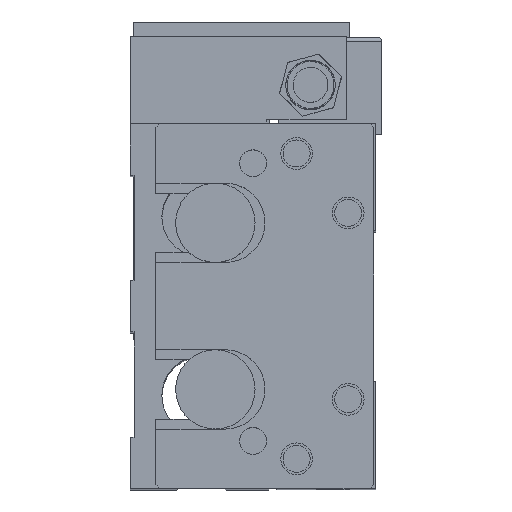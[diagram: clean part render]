
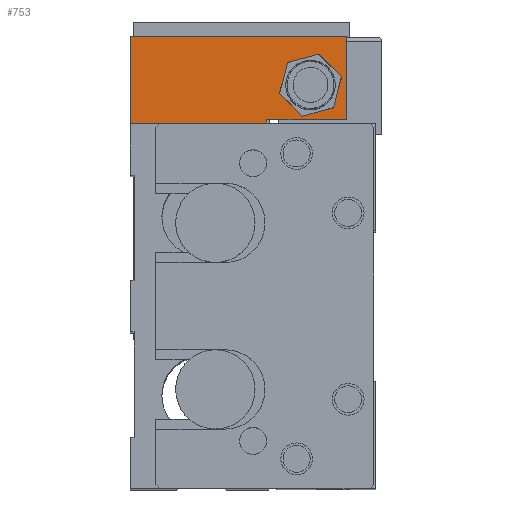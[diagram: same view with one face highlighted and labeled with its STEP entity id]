
A CAD part, top view. The second image highlights one B-rep face of the part: STEP entity #753.
In plain terms, the highlighted planar face has unit normal (0, 0, 1) as drawn and (0, 0, -1) by its records, which use the part's own axes.
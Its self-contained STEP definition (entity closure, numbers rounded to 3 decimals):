
#741 = ORIENTED_EDGE ( 'NONE', *, *, #767, .F. ) ;
#742 = ORIENTED_EDGE ( 'NONE', *, *, #34439, .F. ) ;
#745 = VERTEX_POINT ( 'NONE', #4288 ) ;
#753 = ADVANCED_FACE ( 'NONE', ( #4283, #4284 ), #4345, .T. ) ;
#755 = ORIENTED_EDGE ( 'NONE', *, *, #34205, .F. ) ;
#758 = ORIENTED_EDGE ( 'NONE', *, *, #34209, .F. ) ;
#759 = EDGE_LOOP ( 'NONE', ( #769, #765 ) ) ;
#765 = ORIENTED_EDGE ( 'NONE', *, *, #33395, .T. ) ;
#766 = ORIENTED_EDGE ( 'NONE', *, *, #34226, .F. ) ;
#767 = EDGE_CURVE ( 'NONE', #34160, #745, #4406, .T. ) ;
#769 = ORIENTED_EDGE ( 'NONE', *, *, #774, .T. ) ;
#770 = ORIENTED_EDGE ( 'NONE', *, *, #34294, .F. ) ;
#774 = EDGE_CURVE ( 'NONE', #34460, #34462, #4465, .T. ) ;
#4283 = FACE_OUTER_BOUND ( 'NONE', #34272, .T. ) ;
#4284 = FACE_BOUND ( 'NONE', #759, .T. ) ;
#4288 = CARTESIAN_POINT ( 'NONE',  ( 3.5, 34.5, 0. ) ) ;
#4334 = AXIS2_PLACEMENT_3D ( 'NONE', #4339, #4338, #4411 ) ;
#4338 = DIRECTION ( 'NONE',  ( 0., 0., -1. ) ) ;
#4339 = CARTESIAN_POINT ( 'NONE',  ( 0., 54.5, 0. ) ) ;
#4345 = PLANE ( 'NONE',  #4334 ) ;
#4403 = AXIS2_PLACEMENT_3D ( 'NONE', #4462, #4461, #4460 ) ;
#4405 = CARTESIAN_POINT ( 'NONE',  ( 3.5, 54.5, 0. ) ) ;
#4406 = LINE ( 'NONE', #4405, #4467 ) ;
#4411 = DIRECTION ( 'NONE',  ( -1., 0., 0. ) ) ;
#4460 = DIRECTION ( 'NONE',  ( 1., 0., 0. ) ) ;
#4461 = DIRECTION ( 'NONE',  ( 0., 0., 1. ) ) ;
#4462 = CARTESIAN_POINT ( 'NONE',  ( 12.25, 45.5, 0. ) ) ;
#4465 = CIRCLE ( 'NONE', #4403, 6.25 ) ;
#4466 = DIRECTION ( 'NONE',  ( 0., -1., 0. ) ) ;
#4467 = VECTOR ( 'NONE', #4466, 1000. ) ;
#24512 = DIRECTION ( 'NONE',  ( 1., 0., 0. ) ) ;
#24513 = DIRECTION ( 'NONE',  ( 0., 0., 1. ) ) ;
#24514 = AXIS2_PLACEMENT_3D ( 'NONE', #24522, #24513, #24512 ) ;
#24522 = CARTESIAN_POINT ( 'NONE',  ( 12.25, 45.5, 0. ) ) ;
#24535 = CIRCLE ( 'NONE', #24514, 6.25 ) ;
#24668 = CARTESIAN_POINT ( 'NONE',  ( 3.5, 54.5, 0. ) ) ;
#24733 = LINE ( 'NONE', #24792, #24791 ) ;
#24735 = CARTESIAN_POINT ( 'NONE',  ( 0., 34.5, 0. ) ) ;
#24736 = DIRECTION ( 'NONE',  ( 1., 0., 0. ) ) ;
#24738 = VECTOR ( 'NONE', #24736, 1000. ) ;
#24739 = CARTESIAN_POINT ( 'NONE',  ( 0., 0., 0. ) ) ;
#24742 = LINE ( 'NONE', #24739, #24738 ) ;
#24770 = CARTESIAN_POINT ( 'NONE',  ( 0., 0., 0. ) ) ;
#24771 = LINE ( 'NONE', #24770, #24833 ) ;
#24772 = CARTESIAN_POINT ( 'NONE',  ( 0., 0., 0. ) ) ;
#24790 = DIRECTION ( 'NONE',  ( -1., 0., 0. ) ) ;
#24791 = VECTOR ( 'NONE', #24790, 1000. ) ;
#24792 = CARTESIAN_POINT ( 'NONE',  ( 0., 54.5, 0. ) ) ;
#24793 = CARTESIAN_POINT ( 'NONE',  ( 24.5, 54.5, 0. ) ) ;
#24821 = CARTESIAN_POINT ( 'NONE',  ( 24.5, 0., 0. ) ) ;
#24832 = DIRECTION ( 'NONE',  ( 0., -1., 0. ) ) ;
#24833 = VECTOR ( 'NONE', #24832, 1000. ) ;
#24940 = DIRECTION ( 'NONE',  ( 0., 1., 0. ) ) ;
#24941 = VECTOR ( 'NONE', #24940, 1000. ) ;
#24942 = CARTESIAN_POINT ( 'NONE',  ( 24.5, 0., 0. ) ) ;
#24944 = LINE ( 'NONE', #24942, #24941 ) ;
#25242 = CARTESIAN_POINT ( 'NONE',  ( 18.5, 45.5, 0. ) ) ;
#25265 = DIRECTION ( 'NONE',  ( -1., 0., 0. ) ) ;
#25266 = VECTOR ( 'NONE', #25265, 1000. ) ;
#25267 = CARTESIAN_POINT ( 'NONE',  ( 3.5, 34.5, 0. ) ) ;
#25268 = LINE ( 'NONE', #25267, #25266 ) ;
#25274 = CARTESIAN_POINT ( 'NONE',  ( 6., 45.5, 0. ) ) ;
#33395 = EDGE_CURVE ( 'NONE', #34462, #34460, #24535, .T. ) ;
#34160 = VERTEX_POINT ( 'NONE', #24668 ) ;
#34205 = EDGE_CURVE ( 'NONE', #34249, #34240, #24742, .T. ) ;
#34209 = EDGE_CURVE ( 'NONE', #34212, #34160, #24733, .T. ) ;
#34210 = VERTEX_POINT ( 'NONE', #24735 ) ;
#34212 = VERTEX_POINT ( 'NONE', #24793 ) ;
#34226 = EDGE_CURVE ( 'NONE', #34210, #34249, #24771, .T. ) ;
#34240 = VERTEX_POINT ( 'NONE', #24821 ) ;
#34249 = VERTEX_POINT ( 'NONE', #24772 ) ;
#34272 = EDGE_LOOP ( 'NONE', ( #742, #741, #758, #770, #755, #766 ) ) ;
#34294 = EDGE_CURVE ( 'NONE', #34240, #34212, #24944, .T. ) ;
#34439 = EDGE_CURVE ( 'NONE', #745, #34210, #25268, .T. ) ;
#34460 = VERTEX_POINT ( 'NONE', #25242 ) ;
#34462 = VERTEX_POINT ( 'NONE', #25274 ) ;
